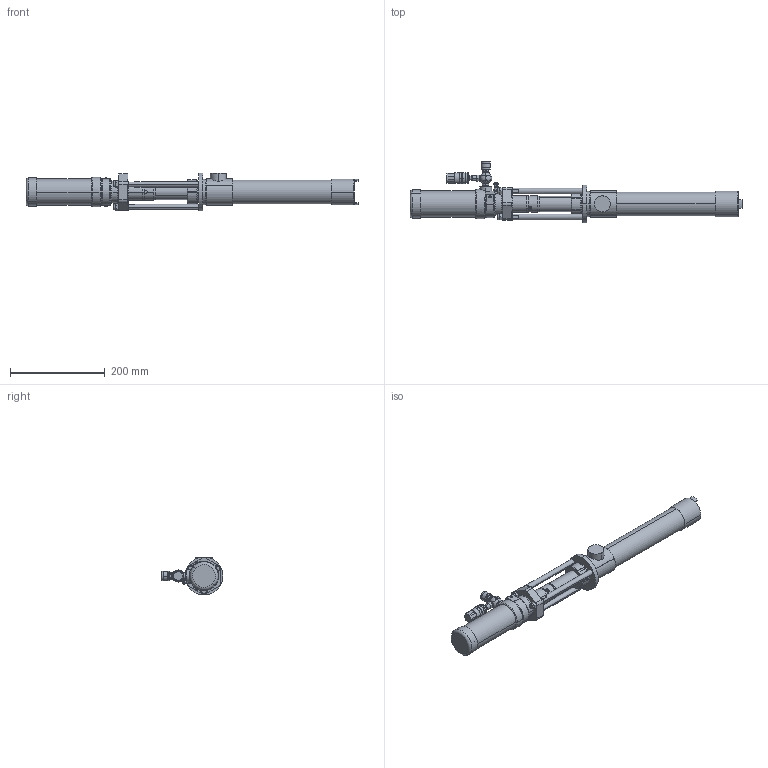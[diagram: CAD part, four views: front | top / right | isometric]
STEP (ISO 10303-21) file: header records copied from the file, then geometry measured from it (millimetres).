
FILE_DESCRIPTION((''),'2;1');
FILE_NAME('226945-EN-ZAC_PRT','2020-05-18T15:47:45',('qusrh3'),(''),'CREO PARAMETRIC BY PTC INC, 2019030','CREO PARAMETRIC BY PTC INC, 2019030','');
FILE_SCHEMA(('CONFIG_CONTROL_DESIGN'));
Length unit declared in the file: inch
Products named in the file (1): 226945-EN-ZAC_PRT
Bounding box: 701.52 x 130.59 x 80 mm (x, y, z)
Surface area: 237092.9 mm2 (no closed solid volume)
Topology: 0 solids, 80 shells, 473 faces, 1256 edges, 825 vertices
Faces by surface type: plane 181, cylinder 156, cone 101, torus 23, bspline 6, sphere 6
Entity records: 15760 total; most frequent: CARTESIAN_POINT 4379, DIRECTION 2448, ORIENTED_EDGE 2145, EDGE_CURVE 1256, AXIS2_PLACEMENT_3D 961, VERTEX_POINT 825, VECTOR 526, LINE 526
